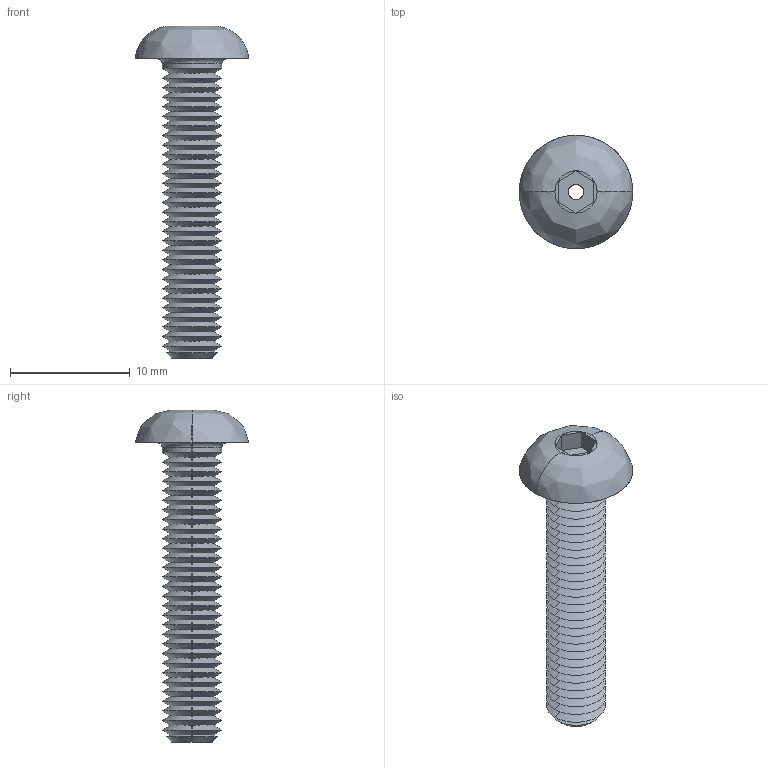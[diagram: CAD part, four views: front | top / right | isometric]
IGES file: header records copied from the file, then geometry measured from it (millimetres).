
Start section: SolidWorks IGES file using analytic representation for surfaces
Global section: file name: C:\Users\liam_\OneDrive\Documents\WORK\Work for WixRoyd\Job Files\J-00019 - Matt Davis CAD Checking\04. CAD Drawings\automotion20190605\P0094_v2\P0094_v2_20190712_IGES\P0094.050-025-A2.igs; native system: SolidWorks 2017; preprocessor: SolidWorks 2017; author: liam_; date: 190712.175431; units: millimetre
Bounding box: 9.5 x 9.5 x 27.75 mm (x, y, z)
Surface area: 952 mm2 (no closed solid volume)
Topology: 0 solids, 0 shells, 140 faces, 716 edges, 716 vertices
Faces by surface type: revolution 126, bspline 14
